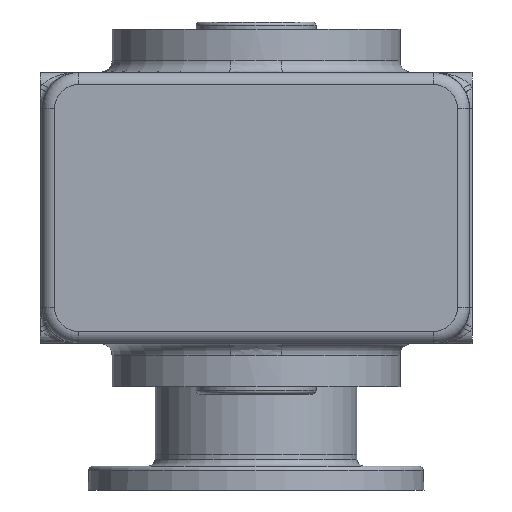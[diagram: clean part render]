
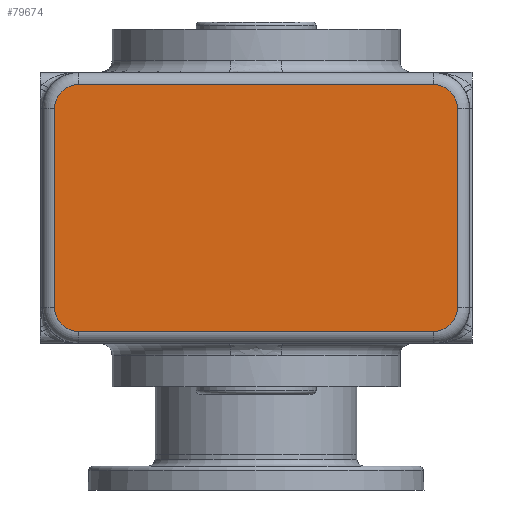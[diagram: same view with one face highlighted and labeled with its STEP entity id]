
A CAD part, front view. The second image highlights one B-rep face of the part: STEP entity #79674.
In plain terms, the highlighted planar face has unit normal (0, -1, 0).
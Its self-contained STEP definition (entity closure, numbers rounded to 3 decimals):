
#8268 = VERTEX_POINT ( 'NONE', #29006 ) ;
#8269 = EDGE_CURVE ( 'NONE', #8279, #8268, #29004, .T. ) ;
#8270 = ORIENTED_EDGE ( 'NONE', *, *, #8269, .T. ) ;
#8272 = ORIENTED_EDGE ( 'NONE', *, *, #14177, .T. ) ;
#8273 = VERTEX_POINT ( 'NONE', #28998 ) ;
#8276 = VERTEX_POINT ( 'NONE', #29049 ) ;
#8278 = ORIENTED_EDGE ( 'NONE', *, *, #8282, .T. ) ;
#8279 = VERTEX_POINT ( 'NONE', #29044 ) ;
#8282 = EDGE_CURVE ( 'NONE', #8276, #8279, #29038, .T. ) ;
#8295 = ORIENTED_EDGE ( 'NONE', *, *, #8298, .T. ) ;
#8296 = ORIENTED_EDGE ( 'NONE', *, *, #8306, .T. ) ;
#8298 = EDGE_CURVE ( 'NONE', #8299, #8276, #29075, .T. ) ;
#8299 = VERTEX_POINT ( 'NONE', #29066 ) ;
#8300 = VERTEX_POINT ( 'NONE', #29065 ) ;
#8306 = EDGE_CURVE ( 'NONE', #8268, #8300, #29058, .T. ) ;
#8339 = ORIENTED_EDGE ( 'NONE', *, *, #8340, .T. ) ;
#8340 = EDGE_CURVE ( 'NONE', #8300, #18069, #29143, .T. ) ;
#14129 = EDGE_CURVE ( 'NONE', #14197, #8273, #31139, .T. ) ;
#14177 = EDGE_CURVE ( 'NONE', #8273, #8299, #31127, .T. ) ;
#14197 = VERTEX_POINT ( 'NONE', #31120 ) ;
#14374 = ORIENTED_EDGE ( 'NONE', *, *, #14129, .T. ) ;
#18069 = VERTEX_POINT ( 'NONE', #31329 ) ;
#28998 = CARTESIAN_POINT ( 'NONE',  ( 83.904, -80., 15. ) ) ;
#29000 = DIRECTION ( 'NONE',  ( 0., 0., -1. ) ) ;
#29001 = DIRECTION ( 'NONE',  ( 0., -1., 0. ) ) ;
#29002 = CARTESIAN_POINT ( 'NONE',  ( -74., -80., 98. ) ) ;
#29003 = AXIS2_PLACEMENT_3D ( 'NONE', #29002, #29001, #29000 ) ;
#29004 = CIRCLE ( 'NONE', #29003, 9.904 ) ;
#29006 = CARTESIAN_POINT ( 'NONE',  ( -83.904, -80., 98. ) ) ;
#29035 = DIRECTION ( 'NONE',  ( -1., 0., 0. ) ) ;
#29036 = VECTOR ( 'NONE', #29035, 1000. ) ;
#29037 = CARTESIAN_POINT ( 'NONE',  ( -74., -80., 107.904 ) ) ;
#29038 = LINE ( 'NONE', #29037, #29036 ) ;
#29044 = CARTESIAN_POINT ( 'NONE',  ( -74., -80., 107.904 ) ) ;
#29049 = CARTESIAN_POINT ( 'NONE',  ( 74., -80., 107.904 ) ) ;
#29055 = DIRECTION ( 'NONE',  ( 0., 0., -1. ) ) ;
#29056 = VECTOR ( 'NONE', #29055, 1000. ) ;
#29057 = CARTESIAN_POINT ( 'NONE',  ( -83.904, -80., 15. ) ) ;
#29058 = LINE ( 'NONE', #29057, #29056 ) ;
#29065 = CARTESIAN_POINT ( 'NONE',  ( -83.904, -80., 15. ) ) ;
#29066 = CARTESIAN_POINT ( 'NONE',  ( 83.904, -80., 98. ) ) ;
#29067 = DIRECTION ( 'NONE',  ( 0., 0., -1. ) ) ;
#29068 = DIRECTION ( 'NONE',  ( 0., -1., 0. ) ) ;
#29069 = CARTESIAN_POINT ( 'NONE',  ( 74., -80., 98. ) ) ;
#29070 = AXIS2_PLACEMENT_3D ( 'NONE', #29069, #29068, #29067 ) ;
#29075 = CIRCLE ( 'NONE', #29070, 9.904 ) ;
#29139 = DIRECTION ( 'NONE',  ( 0., 0., -1. ) ) ;
#29140 = DIRECTION ( 'NONE',  ( 0., -1., 0. ) ) ;
#29141 = CARTESIAN_POINT ( 'NONE',  ( -74., -80., 15. ) ) ;
#29142 = AXIS2_PLACEMENT_3D ( 'NONE', #29141, #29140, #29139 ) ;
#29143 = CIRCLE ( 'NONE', #29142, 9.904 ) ;
#31120 = CARTESIAN_POINT ( 'NONE',  ( 74., -80., 5.096 ) ) ;
#31122 = DIRECTION ( 'NONE',  ( 0., 0., 1. ) ) ;
#31124 = VECTOR ( 'NONE', #31122, 1000. ) ;
#31126 = CARTESIAN_POINT ( 'NONE',  ( 83.904, -80., 98. ) ) ;
#31127 = LINE ( 'NONE', #31126, #31124 ) ;
#31132 = DIRECTION ( 'NONE',  ( 0., 0., -1. ) ) ;
#31134 = DIRECTION ( 'NONE',  ( 0., -1., 0. ) ) ;
#31136 = CARTESIAN_POINT ( 'NONE',  ( 74., -80., 15. ) ) ;
#31137 = AXIS2_PLACEMENT_3D ( 'NONE', #31136, #31134, #31132 ) ;
#31139 = CIRCLE ( 'NONE', #31137, 9.904 ) ;
#31329 = CARTESIAN_POINT ( 'NONE',  ( -74., -80., 5.096 ) ) ;
#49048 = DIRECTION ( 'NONE',  ( 0., -1., 0. ) ) ;
#49049 = CARTESIAN_POINT ( 'NONE',  ( -74., -80., 15. ) ) ;
#49050 = AXIS2_PLACEMENT_3D ( 'NONE', #49049, #49048, #49181 ) ;
#49052 = PLANE ( 'NONE',  #49050 ) ;
#49063 = FACE_OUTER_BOUND ( 'NONE', #79723, .T. ) ;
#49143 = DIRECTION ( 'NONE',  ( 1., 0., 0. ) ) ;
#49144 = VECTOR ( 'NONE', #49143, 1000. ) ;
#49146 = CARTESIAN_POINT ( 'NONE',  ( 74., -80., 5.096 ) ) ;
#49148 = LINE ( 'NONE', #49146, #49144 ) ;
#49181 = DIRECTION ( 'NONE',  ( 0., 0., -1. ) ) ;
#79674 = ADVANCED_FACE ( 'NONE', ( #49063 ), #49052, .T. ) ;
#79723 = EDGE_LOOP ( 'NONE', ( #8272, #8295, #8278, #8270, #8296, #8339, #79824, #14374 ) ) ;
#79824 = ORIENTED_EDGE ( 'NONE', *, *, #79855, .T. ) ;
#79855 = EDGE_CURVE ( 'NONE', #18069, #14197, #49148, .T. ) ;
